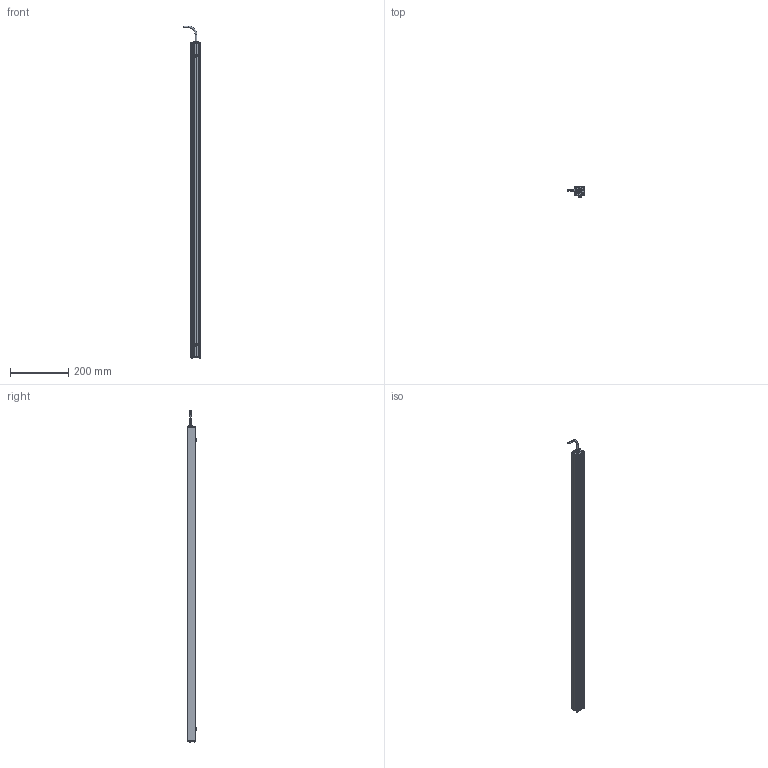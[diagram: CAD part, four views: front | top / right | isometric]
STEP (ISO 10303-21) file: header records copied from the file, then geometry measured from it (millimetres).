
FILE_DESCRIPTION (( 'STEP AP214' ), '1' );
FILE_NAME ('AL150XXXX_AL150246.stp', '2021-04-29T15:41:29', ( '' ), ( '' ), 'SwSTEP 2.0', 'SolidWorks 2018', '' );
FILE_SCHEMA (( 'AUTOMOTIVE_DESIGN' ));
Length unit declared in the file: inch
Products named in the file (12): 1157 (no strap); 116-02-006; CHM6x8_91460A312; 150-01-005-XXX_150-01-005-246; 092408_TRUNCATED; Part1^AL150XXXX; 116-02-007; 093145_93701A253; Part2^AL150XXXX; 150-03-006-XXXX_150-03-006-246; HN-M6_90592A016; AL150XXXX_AL150246
Assembly tree (18 placements, depth 2):
  Part1^AL150XXXX
  Part2^AL150XXXX
  AL150XXXX_AL150246
    150-01-005-XXX_150-01-005-246
    116-02-006
    093145_93701A253  x8
    HN-M6_90592A016  x2
    CHM6x8_91460A312  x2
    150-03-006-XXXX_150-03-006-246
    116-02-007
    1157 (no strap)
    092408_TRUNCATED
Bounding box: 60.68 x 33.84 x 1137.97 mm (x, y, z)
Volume: 336669.5 mm3; surface area: 357211.4 mm2
Topology: 26 solids, 26 shells, 1306 faces, 3436 edges, 2127 vertices
Faces by surface type: cylinder 805, cone 249, plane 153, torus 59, bspline 32, sphere 8
Entity records: 18285 total; most frequent: CARTESIAN_POINT 6069, ORIENTED_EDGE 2496, DIRECTION 2311, EDGE_CURVE 1248, AXIS2_PLACEMENT_3D 881, VERTEX_POINT 800, VECTOR 549, LINE 549
